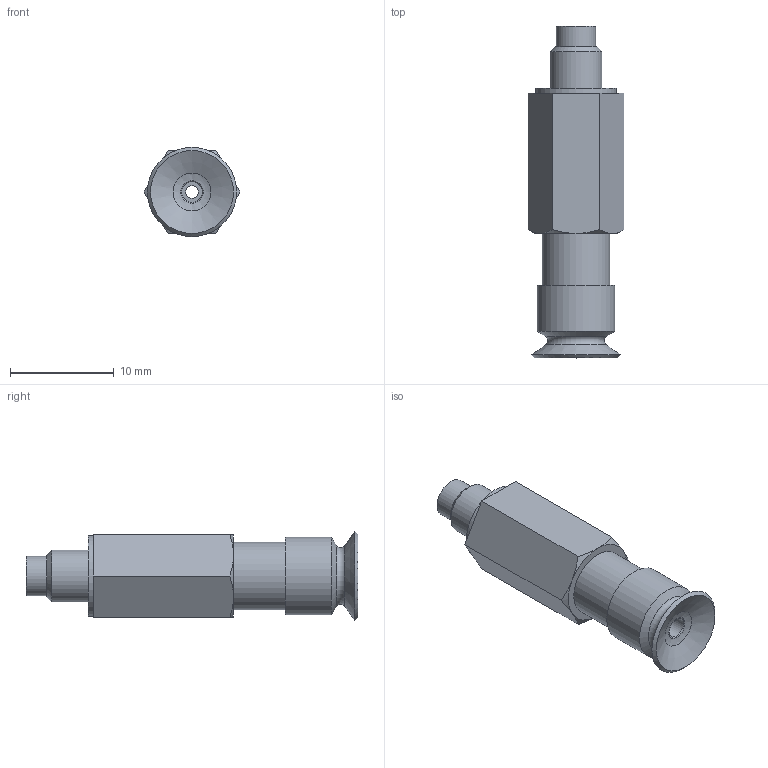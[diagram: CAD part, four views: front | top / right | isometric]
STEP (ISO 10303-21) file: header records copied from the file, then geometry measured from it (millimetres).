
FILE_DESCRIPTION(('STEP AP203'),'1');
FILE_NAME('.stp','2025-04-07T04:38:38',(' '),(' '),'Spatial InterOp 3D',' ',' ');
FILE_SCHEMA(('CONFIG_CONTROL_DESIGN'));
Length unit declared in the file: millimetre
Products named in the file (4): BPSS-L5-BPFG-8A-※; PSS-7-L5-M; PSS-7-L5-F; BPFG-8A-※
Assembly tree (3 placements, depth 2):
  BPSS-L5-BPFG-8A-※
    PSS-7-L5-M
    PSS-7-L5-F
    BPFG-8A-※
Bounding box: 9.24 x 32 x 8.6 mm (x, y, z)
Volume: 1161.3 mm3; surface area: 1776 mm2
Topology: 3 solids, 3 shells, 55 faces, 105 edges, 65 vertices
Faces by surface type: plane 21, cylinder 15, cone 11, torus 7, bspline 1
Full cylindrical faces by diameter (mm): 1.2 x1, 2 x1, 2.4 x2, 3.4 x1, 3.8 x1, 4 x2, 5 x1, 6 x2, 6.5 x2, 7.5 x1, 7.8 x1
Entity records: 1437 total; most frequent: CARTESIAN_POINT 242, DIRECTION 224, ORIENTED_EDGE 144, AXIS2_PLACEMENT_3D 106, EDGE_LOOP 98, FACE_OUTER_BOUND 78, EDGE_CURVE 72, VERTEX_POINT 60
